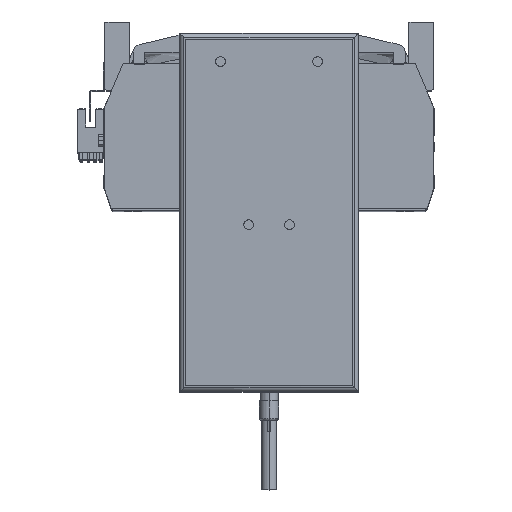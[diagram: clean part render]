
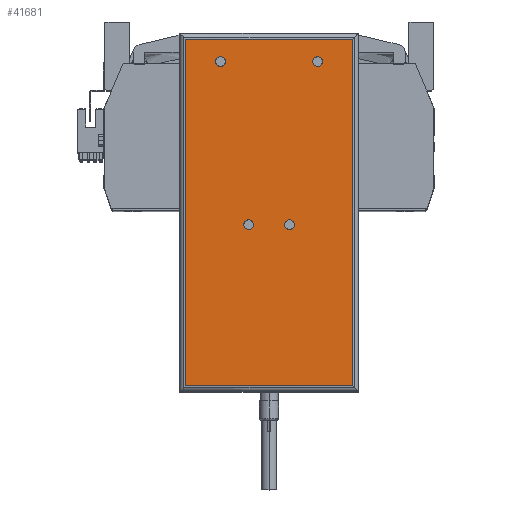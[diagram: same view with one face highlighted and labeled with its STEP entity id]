
A CAD part, top view. The second image highlights one B-rep face of the part: STEP entity #41681.
In plain terms, the highlighted planar face has unit normal (0, 0, 1) as drawn and (0, 0, -1) by its records, which use the part's own axes.
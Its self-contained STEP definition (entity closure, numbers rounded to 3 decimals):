
#30 = CARTESIAN_POINT ( 'NONE',  ( -10.5, -6.25, 0. ) ) ;
#424 = CARTESIAN_POINT ( 'NONE',  ( 22.5, 77.75, 0. ) ) ;
#649 = CIRCLE ( 'NONE', #22882, 2.5 ) ;
#806 = ORIENTED_EDGE ( 'NONE', *, *, #17090, .F. ) ;
#914 = CARTESIAN_POINT ( 'NONE',  ( -46., 89.25, 0. ) ) ;
#1085 = CARTESIAN_POINT ( 'NONE',  ( -43., -89.25, 0. ) ) ;
#1609 = CARTESIAN_POINT ( 'NONE',  ( -43., -92.25, 0. ) ) ;
#1863 = CARTESIAN_POINT ( 'NONE',  ( 43., -89.25, 0. ) ) ;
#3969 = VERTEX_POINT ( 'NONE', #12161 ) ;
#4248 = CARTESIAN_POINT ( 'NONE',  ( 27.5, 77.75, 0. ) ) ;
#4311 = VERTEX_POINT ( 'NONE', #42657 ) ;
#4431 = DIRECTION ( 'NONE',  ( 0., 0., -1. ) ) ;
#5558 = CARTESIAN_POINT ( 'NONE',  ( -46., -89.25, 0. ) ) ;
#5619 = DIRECTION ( 'NONE',  ( -1., 0., 0. ) ) ;
#5674 = EDGE_CURVE ( 'NONE', #7478, #13820, #649, .T. ) ;
#6096 = ORIENTED_EDGE ( 'NONE', *, *, #24478, .F. ) ;
#6111 = EDGE_CURVE ( 'NONE', #16582, #4311, #11375, .T. ) ;
#6310 = AXIS2_PLACEMENT_3D ( 'NONE', #8270, #4431, #11617 ) ;
#6880 = FACE_BOUND ( 'NONE', #7369, .T. ) ;
#7150 = DIRECTION ( 'NONE',  ( -1., 0., 0. ) ) ;
#7369 = EDGE_LOOP ( 'NONE', ( #6096, #12076 ) ) ;
#7478 = VERTEX_POINT ( 'NONE', #4248 ) ;
#7738 = CIRCLE ( 'NONE', #19052, 2.5 ) ;
#8270 = CARTESIAN_POINT ( 'NONE',  ( 25., 77.75, 0. ) ) ;
#9532 = LINE ( 'NONE', #21417, #18473 ) ;
#10258 = ORIENTED_EDGE ( 'NONE', *, *, #19374, .F. ) ;
#10387 = DIRECTION ( 'NONE',  ( 0., -1., 0. ) ) ;
#10825 = EDGE_LOOP ( 'NONE', ( #806, #25837 ) ) ;
#10863 = CARTESIAN_POINT ( 'NONE',  ( -25., 77.75, 0. ) ) ;
#11280 = ORIENTED_EDGE ( 'NONE', *, *, #36880, .T. ) ;
#11375 = CIRCLE ( 'NONE', #36475, 2.5 ) ;
#11493 = PLANE ( 'NONE',  #42856 ) ;
#11617 = DIRECTION ( 'NONE',  ( -1., 0., 0. ) ) ;
#11916 = CARTESIAN_POINT ( 'NONE',  ( -13., -6.25, 0. ) ) ;
#11930 = ORIENTED_EDGE ( 'NONE', *, *, #6111, .F. ) ;
#12076 = ORIENTED_EDGE ( 'NONE', *, *, #5674, .F. ) ;
#12161 = CARTESIAN_POINT ( 'NONE',  ( 13., -6.25, 0. ) ) ;
#13127 = LINE ( 'NONE', #5558, #41955 ) ;
#13422 = EDGE_LOOP ( 'NONE', ( #10258, #15088 ) ) ;
#13559 = AXIS2_PLACEMENT_3D ( 'NONE', #10863, #45350, #7150 ) ;
#13820 = VERTEX_POINT ( 'NONE', #424 ) ;
#14090 = DIRECTION ( 'NONE',  ( 0., 0., -1. ) ) ;
#15076 = VECTOR ( 'NONE', #46163, 1000. ) ;
#15088 = ORIENTED_EDGE ( 'NONE', *, *, #22610, .F. ) ;
#16094 = DIRECTION ( 'NONE',  ( -1., 0., 0. ) ) ;
#16294 = CIRCLE ( 'NONE', #45530, 2.5 ) ;
#16582 = VERTEX_POINT ( 'NONE', #11916 ) ;
#16659 = VERTEX_POINT ( 'NONE', #1863 ) ;
#16786 = EDGE_CURVE ( 'NONE', #21109, #16659, #9532, .T. ) ;
#17049 = FACE_BOUND ( 'NONE', #10825, .T. ) ;
#17068 = DIRECTION ( 'NONE',  ( -1., 0., 0. ) ) ;
#17090 = EDGE_CURVE ( 'NONE', #34425, #28722, #7738, .T. ) ;
#17134 = DIRECTION ( 'NONE',  ( 0., 1., 0. ) ) ;
#17446 = CARTESIAN_POINT ( 'NONE',  ( 25., 77.75, 0. ) ) ;
#18019 = CARTESIAN_POINT ( 'NONE',  ( -43., 89.25, 0. ) ) ;
#18473 = VECTOR ( 'NONE', #10387, 1000. ) ;
#18959 = CARTESIAN_POINT ( 'NONE',  ( -27.5, 77.75, 0. ) ) ;
#19052 = AXIS2_PLACEMENT_3D ( 'NONE', #35063, #19214, #23074 ) ;
#19214 = DIRECTION ( 'NONE',  ( 0., 0., -1. ) ) ;
#19374 = EDGE_CURVE ( 'NONE', #35284, #3969, #21542, .T. ) ;
#19582 = DIRECTION ( 'NONE',  ( 0., 0., -1. ) ) ;
#20210 = ORIENTED_EDGE ( 'NONE', *, *, #25437, .F. ) ;
#20323 = CARTESIAN_POINT ( 'NONE',  ( -46., -92.25, 0. ) ) ;
#21008 = EDGE_LOOP ( 'NONE', ( #11930, #20210 ) ) ;
#21109 = VERTEX_POINT ( 'NONE', #46253 ) ;
#21273 = CARTESIAN_POINT ( 'NONE',  ( -22.5, 77.75, 0. ) ) ;
#21417 = CARTESIAN_POINT ( 'NONE',  ( 43., -92.25, 0. ) ) ;
#21542 = CIRCLE ( 'NONE', #32864, 2.5 ) ;
#22256 = EDGE_LOOP ( 'NONE', ( #37262, #22693, #38098, #11280 ) ) ;
#22610 = EDGE_CURVE ( 'NONE', #3969, #35284, #47779, .T. ) ;
#22693 = ORIENTED_EDGE ( 'NONE', *, *, #42931, .T. ) ;
#22882 = AXIS2_PLACEMENT_3D ( 'NONE', #17446, #14090, #29577 ) ;
#23074 = DIRECTION ( 'NONE',  ( -1., 0., 0. ) ) ;
#23160 = CARTESIAN_POINT ( 'NONE',  ( 10.5, -6.25, 0. ) ) ;
#23943 = AXIS2_PLACEMENT_3D ( 'NONE', #36938, #40898, #44562 ) ;
#24478 = EDGE_CURVE ( 'NONE', #13820, #7478, #41639, .T. ) ;
#24890 = FACE_OUTER_BOUND ( 'NONE', #22256, .T. ) ;
#25437 = EDGE_CURVE ( 'NONE', #4311, #16582, #16294, .T. ) ;
#25837 = ORIENTED_EDGE ( 'NONE', *, *, #30103, .F. ) ;
#26708 = VECTOR ( 'NONE', #17134, 1000. ) ;
#28601 = DIRECTION ( 'NONE',  ( 0., 0., -1. ) ) ;
#28722 = VERTEX_POINT ( 'NONE', #21273 ) ;
#29577 = DIRECTION ( 'NONE',  ( -1., 0., 0. ) ) ;
#30103 = EDGE_CURVE ( 'NONE', #28722, #34425, #47926, .T. ) ;
#32088 = DIRECTION ( 'NONE',  ( 0., 0., -1. ) ) ;
#32390 = VERTEX_POINT ( 'NONE', #18019 ) ;
#32864 = AXIS2_PLACEMENT_3D ( 'NONE', #23160, #32088, #16094 ) ;
#33738 = EDGE_CURVE ( 'NONE', #38656, #32390, #48264, .T. ) ;
#34425 = VERTEX_POINT ( 'NONE', #18959 ) ;
#34943 = LINE ( 'NONE', #914, #15076 ) ;
#35063 = CARTESIAN_POINT ( 'NONE',  ( -25., 77.75, 0. ) ) ;
#35284 = VERTEX_POINT ( 'NONE', #47081 ) ;
#35688 = DIRECTION ( 'NONE',  ( 1., 0., 0. ) ) ;
#36475 = AXIS2_PLACEMENT_3D ( 'NONE', #47671, #28601, #5619 ) ;
#36880 = EDGE_CURVE ( 'NONE', #32390, #21109, #34943, .T. ) ;
#36938 = CARTESIAN_POINT ( 'NONE',  ( 10.5, -6.25, 0. ) ) ;
#37262 = ORIENTED_EDGE ( 'NONE', *, *, #16786, .T. ) ;
#38098 = ORIENTED_EDGE ( 'NONE', *, *, #33738, .T. ) ;
#38464 = DIRECTION ( 'NONE',  ( -1., 0., 0. ) ) ;
#38656 = VERTEX_POINT ( 'NONE', #1085 ) ;
#40898 = DIRECTION ( 'NONE',  ( 0., 0., -1. ) ) ;
#41639 = CIRCLE ( 'NONE', #6310, 2.5 ) ;
#41681 = ADVANCED_FACE ( 'NONE', ( #24890, #46442, #43482, #17049, #6880 ), #11493, .F. ) ;
#41955 = VECTOR ( 'NONE', #17068, 1000. ) ;
#42657 = CARTESIAN_POINT ( 'NONE',  ( -8., -6.25, 0. ) ) ;
#42814 = DIRECTION ( 'NONE',  ( 0., 0., 1. ) ) ;
#42856 = AXIS2_PLACEMENT_3D ( 'NONE', #20323, #42814, #35688 ) ;
#42931 = EDGE_CURVE ( 'NONE', #16659, #38656, #13127, .T. ) ;
#43482 = FACE_BOUND ( 'NONE', #13422, .T. ) ;
#44562 = DIRECTION ( 'NONE',  ( -1., 0., 0. ) ) ;
#45350 = DIRECTION ( 'NONE',  ( 0., 0., -1. ) ) ;
#45530 = AXIS2_PLACEMENT_3D ( 'NONE', #30, #19582, #38464 ) ;
#46163 = DIRECTION ( 'NONE',  ( 1., 0., 0. ) ) ;
#46253 = CARTESIAN_POINT ( 'NONE',  ( 43., 89.25, 0. ) ) ;
#46442 = FACE_BOUND ( 'NONE', #21008, .T. ) ;
#47081 = CARTESIAN_POINT ( 'NONE',  ( 8., -6.25, 0. ) ) ;
#47671 = CARTESIAN_POINT ( 'NONE',  ( -10.5, -6.25, 0. ) ) ;
#47779 = CIRCLE ( 'NONE', #23943, 2.5 ) ;
#47926 = CIRCLE ( 'NONE', #13559, 2.5 ) ;
#48264 = LINE ( 'NONE', #1609, #26708 ) ;
